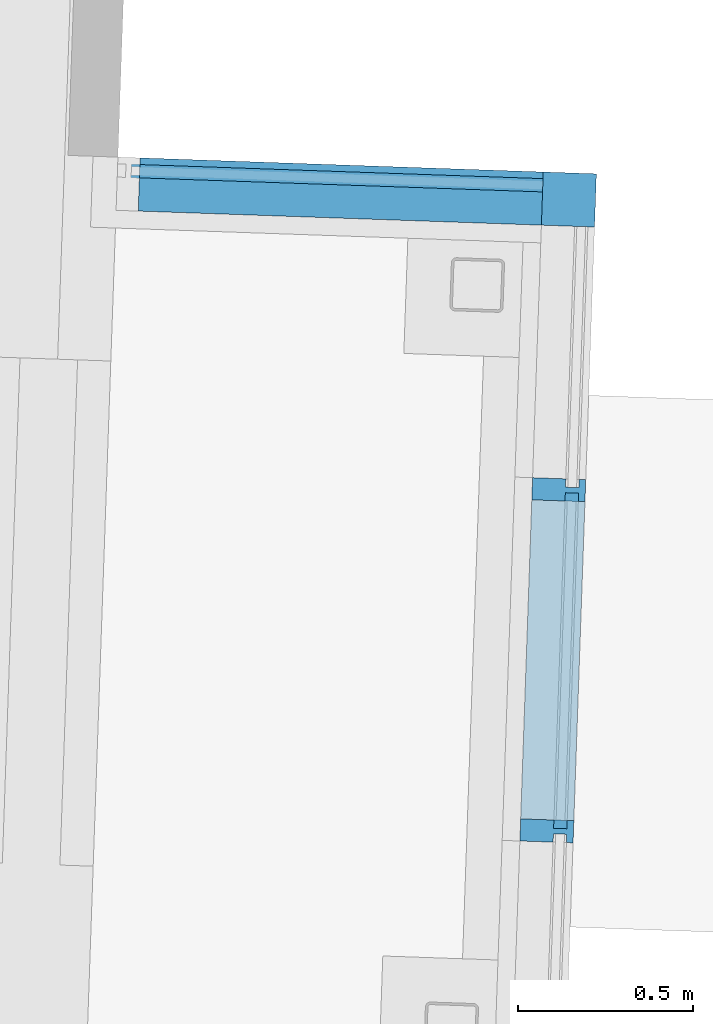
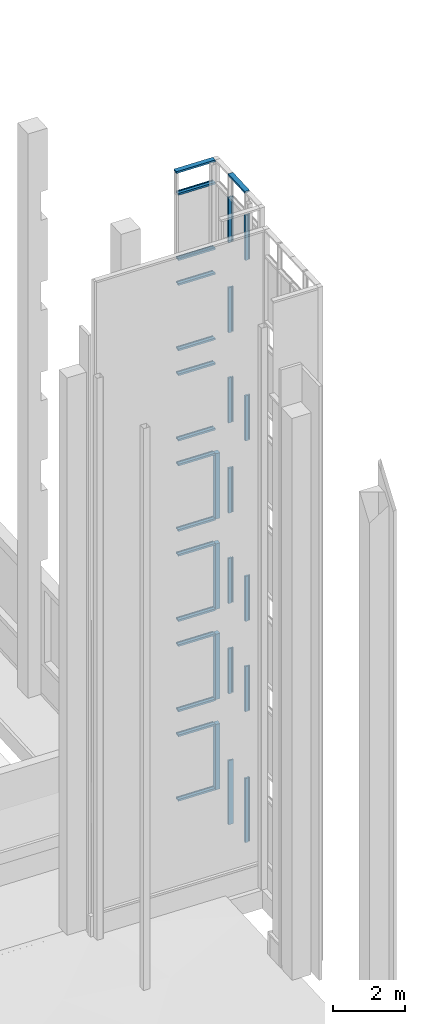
# One storey, part 11 of 44: 32 members, 2 elements without a shape of their own.
"""IFC2X3 building model written with IfcOpenShell, lengths in feet."""

from ifc_helpers import new_model, entity, si_unit, converted_unit, derived_unit, direction, frame, origin, origin_2d_with_axis, place, context, subcontext, project, spatial, polyline, rectangle, outline, extrude, material, type_object, element, aggregate, save


model = new_model("IFC2X3")

# Units and contexts
model_context = context("Model", 3, precision=0.0001, world=origin(), true_north=direction((0.999390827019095, 0.0348994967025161)))
body_context = subcontext(model_context, "Body", "Model", "MODEL_VIEW")
ifc_project = project(units=[converted_unit("LENGTHUNIT", "FOOT", entity("IfcRatioMeasure", 0.3048), si_unit("LENGTHUNIT", "METRE"), dimensions=[1, 0, 0, 0, 0, 0, 0]), converted_unit("AREAUNIT", "SQUARE FOOT", entity("IfcRatioMeasure", 0.09290304), si_unit("AREAUNIT", "SQUARE_METRE"), dimensions=[2, 0, 0, 0, 0, 0, 0]), converted_unit("VOLUMEUNIT", "CUBIC FOOT", entity("IfcRatioMeasure", 0.028316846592), si_unit("VOLUMEUNIT", "CUBIC_METRE"), dimensions=[3, 0, 0, 0, 0, 0, 0]), converted_unit("PLANEANGLEUNIT", "DEGREE", entity("IfcRatioMeasure", 0.0174532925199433), si_unit("PLANEANGLEUNIT", "RADIAN"), dimensions=[0, 0, 0, 0, 0, 0, 0]), si_unit("MASSUNIT", "GRAM", prefix="KILO"), si_unit("TIMEUNIT", "SECOND"), si_unit("FREQUENCYUNIT", "HERTZ"), si_unit("THERMODYNAMICTEMPERATUREUNIT", "DEGREE_CELSIUS"), derived_unit("THERMALTRANSMITTANCEUNIT", [(si_unit("MASSUNIT", "GRAM", prefix="KILO"), 1), (si_unit("THERMODYNAMICTEMPERATUREUNIT", "KELVIN"), -1), (si_unit("TIMEUNIT", "SECOND"), -3)]), derived_unit("VOLUMETRICFLOWRATEUNIT", [(si_unit("LENGTHUNIT", "METRE"), 3), (si_unit("TIMEUNIT", "SECOND"), -1)]), si_unit("ELECTRICCURRENTUNIT", "AMPERE"), si_unit("ELECTRICVOLTAGEUNIT", "VOLT"), si_unit("POWERUNIT", "WATT"), si_unit("FORCEUNIT", "NEWTON"), si_unit("ILLUMINANCEUNIT", "LUX"), si_unit("LUMINOUSFLUXUNIT", "LUMEN"), si_unit("LUMINOUSINTENSITYUNIT", "CANDELA"), derived_unit("USERDEFINED", [(si_unit("MASSUNIT", "GRAM", prefix="KILO"), -1), (si_unit("LENGTHUNIT", "METRE"), -2), (si_unit("TIMEUNIT", "SECOND"), 3), (si_unit("LUMINOUSFLUXUNIT", "LUMEN"), 1)]), derived_unit("LINEARVELOCITYUNIT", [(si_unit("LENGTHUNIT", "METRE"), 1), (si_unit("TIMEUNIT", "SECOND"), -1)]), si_unit("PRESSUREUNIT", "PASCAL"), derived_unit("USERDEFINED", [(si_unit("LENGTHUNIT", "METRE"), -2), (si_unit("MASSUNIT", "GRAM", prefix="KILO"), 1), (si_unit("TIMEUNIT", "SECOND"), -2)])], contexts=[model_context])

# Site, building, storey
site_placement = place(None, frame((892.518771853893, 322.38689265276, 0.00393700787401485), z_axis=(0.0, 0.0, 1.0), x_axis=(0.0348994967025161, 0.999390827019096, 0.0)))
site = spatial("IfcSite", under=ifc_project, at=site_placement, Name="Default", CompositionType="ELEMENT")
building_placement = place(site_placement, origin())
building = spatial("IfcBuilding", under=site, at=building_placement, CompositionType="ELEMENT")
storey_placement = place(building_placement, frame((0.0, 0.0, 544.75)))
storey = spatial("IfcBuildingStorey", under=building, at=storey_placement, Name="Exist Garage - Ground Level", CompositionType="ELEMENT", Elevation=544.75)

# Curtain wall, members
curtain_wall_type = type_object("IfcCurtainWallType", Name="Curtain Wall:(Existing) Curtainwall - Blank", PredefinedType="NOTDEFINED")
curtain_wall_1_placement = place(storey_placement, frame((0.0, 0.0, -544.75)))
curtain_wall_1 = element("IfcCurtainWall", 1, at=curtain_wall_1_placement, inside=storey, type_object=curtain_wall_type, Name="Curtain Wall:(Existing) Curtainwall - Blank", ObjectType="Curtain Wall:(Existing) Curtainwall - Blank")
ifc_material = material(Name="Metal - Aluminum")
member_1_placement = place(curtain_wall_1_placement, frame((0.0, 0.0, 544.75)))
member_1 = element("IfcMember", 2, at=member_1_placement, material=ifc_material, Name="Curtain Wall:(Existing) Curtainwall - Blank", ObjectType="Curtain Wall:(Existing) Curtainwall - Blank", context=body_context, shape_type="SweptSolid", body=[
    extrude(outline(polyline([(-0.136718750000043, -0.312499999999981), (0.0716145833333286, -0.312499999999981), (0.0716145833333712, 0.0), (-0.00651041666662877, 0.0), (-0.00651041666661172, 0.125000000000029), (0.0716145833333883, 0.125000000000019), (0.0716145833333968, 0.187500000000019), (-0.136718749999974, 0.187500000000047), (-0.136718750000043, -0.312499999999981)])), frame((111.448128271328, 230.951453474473, 71.9466145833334), z_axis=(-1.0, 0.0, 0.0), x_axis=(0.0, 0.0, -1.0)), (0.0, 0.0, 1.0), 3.20833333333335),
])
member_2_placement = place(curtain_wall_1_placement, frame((0.0, 0.0, 544.75)))
member_2 = element("IfcMember", 3, at=member_2_placement, material=ifc_material, Name="Curtain Wall:(Existing) Curtainwall - Blank", ObjectType="Curtain Wall:(Existing) Curtainwall - Blank", context=body_context, shape_type="SweptSolid", body=[
    extrude(outline(polyline([(-0.104166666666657, -0.333333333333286), (0.104166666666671, -0.333333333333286), (0.104166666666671, -0.020833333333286), (0.0260416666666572, -0.020833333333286), (0.0260416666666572, 0.104166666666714), (0.104166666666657, 0.104166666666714), (0.104166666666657, 0.166666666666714), (-0.104166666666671, 0.166666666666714), (-0.104166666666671, 0.104166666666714), (-0.0260416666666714, 0.104166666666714), (-0.0260416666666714, -0.020833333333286), (-0.104166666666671, -0.020833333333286), (-0.104166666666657, -0.333333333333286)])), frame((108.239794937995, 230.93062014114, 44.5), z_axis=(0.0, 0.0, 1.0), x_axis=(-1.0, 0.0, 0.0)), (0.0, 0.0, 1.0), 5.0),
])
member_3_placement = place(curtain_wall_1_placement, frame((0.0, 0.0, 544.75)))
member_3 = element("IfcMember", 4, at=member_3_placement, material=ifc_material, Name="Curtain Wall:(Existing) Curtainwall - Blank", ObjectType="Curtain Wall:(Existing) Curtainwall - Blank", context=body_context, shape_type="SweptSolid", body=[
    extrude(outline(polyline([(-0.104166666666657, -0.333333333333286), (0.104166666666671, -0.333333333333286), (0.104166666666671, -0.020833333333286), (0.0260416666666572, -0.020833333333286), (0.0260416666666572, 0.104166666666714), (0.104166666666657, 0.104166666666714), (0.104166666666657, 0.166666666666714), (-0.104166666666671, 0.166666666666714), (-0.104166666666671, 0.104166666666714), (-0.0260416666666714, 0.104166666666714), (-0.0260416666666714, -0.020833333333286), (-0.104166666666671, -0.020833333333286), (-0.104166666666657, -0.333333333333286)])), frame((108.239794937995, 230.93062014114, 14.5), z_axis=(0.0, 0.0, 1.0), x_axis=(-1.0, 0.0, 0.0)), (0.0, 0.0, 1.0), 5.0),
])
member_4_placement = place(curtain_wall_1_placement, frame((0.0, 0.0, 544.75)))
member_4 = element("IfcMember", 5, at=member_4_placement, material=ifc_material, Name="Curtain Wall:(Existing) Curtainwall - Blank", ObjectType="Curtain Wall:(Existing) Curtainwall - Blank", context=body_context, shape_type="SweptSolid", body=[
    extrude(outline(polyline([(-0.136718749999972, -0.3125), (0.071614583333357, -0.3125), (0.071614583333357, 0.0), (-0.00651041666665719, 0.0), (-0.00651041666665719, 0.125), (0.0716145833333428, 0.125), (0.0716145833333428, 0.1875), (-0.136718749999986, 0.1875), (-0.136718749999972, -0.3125)])), frame((108.207242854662, 230.951453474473, 0.0), z_axis=(0.0, 0.0, 1.0), x_axis=(-1.0, 0.0, 0.0)), (0.0, 0.0, 1.0), 7.10416666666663),
])
member_5_placement = place(curtain_wall_1_placement, frame((0.0, 0.0, 544.75)))
member_5 = element("IfcMember", 6, at=member_5_placement, material=ifc_material, Name="Curtain Wall:(Existing) Curtainwall - Blank", ObjectType="Curtain Wall:(Existing) Curtainwall - Blank", context=body_context, shape_type="SweptSolid", body=[
    extrude(outline(polyline([(-0.104166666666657, -0.333333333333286), (0.104166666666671, -0.333333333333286), (0.104166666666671, -0.020833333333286), (0.0260416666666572, -0.020833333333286), (0.0260416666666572, 0.104166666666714), (0.104166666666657, 0.104166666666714), (0.104166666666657, 0.166666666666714), (-0.104166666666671, 0.166666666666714), (-0.104166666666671, 0.104166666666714), (-0.0260416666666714, 0.104166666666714), (-0.0260416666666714, -0.020833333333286), (-0.104166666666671, -0.020833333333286), (-0.104166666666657, -0.333333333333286)])), frame((108.239794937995, 230.93062014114, 24.5), z_axis=(0.0, 0.0, 1.0), x_axis=(-1.0, 0.0, 0.0)), (0.0, 0.0, 1.0), 5.0),
])
member_6_placement = place(curtain_wall_1_placement, frame((0.0, 0.0, 544.75)))
member_6 = element("IfcMember", 7, at=member_6_placement, material=ifc_material, Name="Curtain Wall:(Existing) Curtainwall - Blank", ObjectType="Curtain Wall:(Existing) Curtainwall - Blank", context=body_context, shape_type="SweptSolid", body=[
    extrude(outline(polyline([(-0.104166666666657, -0.333333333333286), (0.104166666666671, -0.333333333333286), (0.104166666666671, -0.020833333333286), (0.0260416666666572, -0.020833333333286), (0.0260416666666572, 0.104166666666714), (0.104166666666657, 0.104166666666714), (0.104166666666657, 0.166666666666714), (-0.104166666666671, 0.166666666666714), (-0.104166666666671, 0.104166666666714), (-0.0260416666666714, 0.104166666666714), (-0.0260416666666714, -0.020833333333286), (-0.104166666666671, -0.020833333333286), (-0.104166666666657, -0.333333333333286)])), frame((108.239794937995, 230.93062014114, 64.5), z_axis=(0.0, 0.0, 1.0), x_axis=(-1.0, 0.0, 0.0)), (0.0, 0.0, 1.0), 5.0),
])
member_7_placement = place(curtain_wall_1_placement, frame((0.0, 0.0, 544.75)))
member_7 = element("IfcMember", 8, at=member_7_placement, material=ifc_material, Name="Curtain Wall:(Existing) Curtainwall - Blank", ObjectType="Curtain Wall:(Existing) Curtainwall - Blank", context=body_context, shape_type="SweptSolid", body=[
    extrude(outline(polyline([(-0.0716145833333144, -0.3125), (0.136718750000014, -0.3125), (0.136718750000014, 0.1875), (-0.0716145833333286, 0.1875), (-0.0716145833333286, 0.125), (0.00651041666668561, 0.125), (0.00651041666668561, 0.0), (-0.0716145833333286, 0.0), (-0.0716145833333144, -0.3125)])), frame((111.480680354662, 230.951453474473, 0.0), z_axis=(0.0, 0.0, 1.0), x_axis=(-1.0, 0.0, 0.0)), (0.0, 0.0, 1.0), 7.10416666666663),
])
member_8_placement = place(curtain_wall_1_placement, frame((0.0, 0.0, 544.75)))
member_8 = element("IfcMember", 9, at=member_8_placement, material=ifc_material, Name="Curtain Wall:(Existing) Curtainwall - Blank", ObjectType="Curtain Wall:(Existing) Curtainwall - Blank", context=body_context, shape_type="SweptSolid", body=[
    extrude(outline(polyline([(-0.104166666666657, -0.333333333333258), (0.104166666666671, -0.333333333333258), (0.104166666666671, -0.0208333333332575), (0.0260416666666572, -0.0208333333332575), (0.0260416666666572, 0.104166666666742), (0.104166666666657, 0.104166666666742), (0.104166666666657, 0.166666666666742), (-0.104166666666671, 0.166666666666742), (-0.104166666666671, 0.104166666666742), (-0.0260416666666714, 0.104166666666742), (-0.0260416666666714, -0.0208333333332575), (-0.104166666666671, -0.0208333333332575), (-0.104166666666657, -0.333333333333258)])), frame((111.448128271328, 230.93062014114, 14.5), z_axis=(0.0, 0.0, 1.0), x_axis=(-1.0, 0.0, 0.0)), (0.0, 0.0, 1.0), 5.0),
])
member_9_placement = place(curtain_wall_1_placement, frame((0.0, 0.0, 544.75)))
member_9 = element("IfcMember", 10, at=member_9_placement, material=ifc_material, Name="Curtain Wall:(Existing) Curtainwall - Blank", ObjectType="Curtain Wall:(Existing) Curtainwall - Blank", context=body_context, shape_type="SweptSolid", body=[
    extrude(outline(polyline([(-0.104166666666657, -0.333333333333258), (0.104166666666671, -0.333333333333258), (0.104166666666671, -0.0208333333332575), (0.0260416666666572, -0.0208333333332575), (0.0260416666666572, 0.104166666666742), (0.104166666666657, 0.104166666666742), (0.104166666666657, 0.166666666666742), (-0.104166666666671, 0.166666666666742), (-0.104166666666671, 0.104166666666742), (-0.0260416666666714, 0.104166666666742), (-0.0260416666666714, -0.0208333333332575), (-0.104166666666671, -0.0208333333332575), (-0.104166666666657, -0.333333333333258)])), frame((111.448128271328, 230.93062014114, 24.5), z_axis=(0.0, 0.0, 1.0), x_axis=(-1.0, 0.0, 0.0)), (0.0, 0.0, 1.0), 5.0),
])
member_10_placement = place(curtain_wall_1_placement, frame((0.0, 0.0, 544.75)))
member_10 = element("IfcMember", 11, at=member_10_placement, material=ifc_material, Name="Curtain Wall:(Existing) Curtainwall - Blank", ObjectType="Curtain Wall:(Existing) Curtainwall - Blank", context=body_context, shape_type="SweptSolid", body=[
    extrude(outline(polyline([(-0.104166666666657, -0.333333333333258), (0.104166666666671, -0.333333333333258), (0.104166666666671, -0.0208333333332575), (0.0260416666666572, -0.0208333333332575), (0.0260416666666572, 0.104166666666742), (0.104166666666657, 0.104166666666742), (0.104166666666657, 0.166666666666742), (-0.104166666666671, 0.166666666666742), (-0.104166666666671, 0.104166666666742), (-0.0260416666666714, 0.104166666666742), (-0.0260416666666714, -0.0208333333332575), (-0.104166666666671, -0.0208333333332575), (-0.104166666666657, -0.333333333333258)])), frame((111.448128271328, 230.93062014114, 34.5), z_axis=(0.0, 0.0, 1.0), x_axis=(-1.0, 0.0, 0.0)), (0.0, 0.0, 1.0), 5.0),
])
member_11_placement = place(curtain_wall_1_placement, frame((0.0, 0.0, 544.75)))
member_11 = element("IfcMember", 12, at=member_11_placement, material=ifc_material, Name="Curtain Wall:(Existing) Curtainwall - Blank", ObjectType="Curtain Wall:(Existing) Curtainwall - Blank", context=body_context, shape_type="SweptSolid", body=[
    extrude(outline(polyline([(-0.104166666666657, -0.333333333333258), (0.104166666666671, -0.333333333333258), (0.104166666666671, -0.0208333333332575), (0.0260416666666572, -0.0208333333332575), (0.0260416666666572, 0.104166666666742), (0.104166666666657, 0.104166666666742), (0.104166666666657, 0.166666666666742), (-0.104166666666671, 0.166666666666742), (-0.104166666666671, 0.104166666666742), (-0.0260416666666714, 0.104166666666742), (-0.0260416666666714, -0.0208333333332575), (-0.104166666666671, -0.0208333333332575), (-0.104166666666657, -0.333333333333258)])), frame((111.448128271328, 230.93062014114, 44.5), z_axis=(0.0, 0.0, 1.0), x_axis=(-1.0, 0.0, 0.0)), (0.0, 0.0, 1.0), 5.0),
])
member_12_placement = place(curtain_wall_1_placement, frame((0.0, 0.0, 544.75)))
member_12 = element("IfcMember", 13, at=member_12_placement, material=ifc_material, Name="Curtain Wall:(Existing) Curtainwall - Blank", ObjectType="Curtain Wall:(Existing) Curtainwall - Blank", context=body_context, shape_type="SweptSolid", body=[
    extrude(outline(polyline([(-0.104166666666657, -0.333333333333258), (0.104166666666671, -0.333333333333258), (0.104166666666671, -0.0208333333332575), (0.0260416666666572, -0.0208333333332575), (0.0260416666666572, 0.104166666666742), (0.104166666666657, 0.104166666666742), (0.104166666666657, 0.166666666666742), (-0.104166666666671, 0.166666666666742), (-0.104166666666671, 0.104166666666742), (-0.0260416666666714, 0.104166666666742), (-0.0260416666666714, -0.0208333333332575), (-0.104166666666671, -0.0208333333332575), (-0.104166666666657, -0.333333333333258)])), frame((111.448128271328, 230.93062014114, 54.5), z_axis=(0.0, 0.0, 1.0), x_axis=(-1.0, 0.0, 0.0)), (0.0, 0.0, 1.0), 5.0),
])
member_13_placement = place(curtain_wall_1_placement, frame((0.0, 0.0, 544.75)))
member_13 = element("IfcMember", 14, at=member_13_placement, material=ifc_material, Name="Curtain Wall:(Existing) Curtainwall - Blank", ObjectType="Curtain Wall:(Existing) Curtainwall - Blank", context=body_context, shape_type="SweptSolid", body=[
    extrude(outline(polyline([(-0.104166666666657, -0.333333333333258), (0.104166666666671, -0.333333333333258), (0.104166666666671, -0.0208333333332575), (0.0260416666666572, -0.0208333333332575), (0.0260416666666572, 0.104166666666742), (0.104166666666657, 0.104166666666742), (0.104166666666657, 0.166666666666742), (-0.104166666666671, 0.166666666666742), (-0.104166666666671, 0.104166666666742), (-0.0260416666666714, 0.104166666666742), (-0.0260416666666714, -0.0208333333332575), (-0.104166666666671, -0.0208333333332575), (-0.104166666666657, -0.333333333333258)])), frame((111.448128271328, 230.93062014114, 64.5), z_axis=(0.0, 0.0, 1.0), x_axis=(-1.0, 0.0, 0.0)), (0.0, 0.0, 1.0), 5.0),
])
aggregate(curtain_wall_1, [member_1, member_2, member_3, member_4, member_5, member_6, member_7, member_8, member_9, member_10, member_11, member_12, member_13])

curtain_wall_2_placement = place(storey_placement, frame((0.0, 0.0, -544.75)))
curtain_wall_2 = element("IfcCurtainWall", 15, at=curtain_wall_2_placement, inside=storey, type_object=curtain_wall_type, Name="Curtain Wall:(Existing) Curtainwall - Blank", ObjectType="Curtain Wall:(Existing) Curtainwall - Blank")
member_14_placement = place(curtain_wall_2_placement, frame((0.0, 0.0, 544.75)))
member_14 = element("IfcMember", 16, at=member_14_placement, material=ifc_material, Name="Curtain Wall:(Existing) Curtainwall - Blank", ObjectType="Curtain Wall:(Existing) Curtainwall - Blank", context=body_context, shape_type="SweptSolid", body=[
    extrude(outline(polyline([(-0.13671875, -0.3125), (0.0716145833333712, -0.3125), (0.0716145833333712, 0.0), (-0.00651041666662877, 0.0), (-0.00651041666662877, 0.125), (0.0716145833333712, 0.125), (0.0716145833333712, 0.1875), (-0.13671875, 0.1875), (-0.13671875, -0.3125)])), frame((114.239796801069, 235.263953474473, 71.9466145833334), z_axis=(0.0, -1.0, 0.0), x_axis=(0.0, 0.0, -1.0)), (0.0, 0.0, 1.0), 4.00000000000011),
])
member_15_placement = place(curtain_wall_2_placement, frame((0.0, 0.0, 544.75)))
member_15 = element("IfcMember", 17, at=member_15_placement, material=ifc_material, Name="Curtain Wall:(Existing) Curtainwall - Blank", ObjectType="Curtain Wall:(Existing) Curtainwall - Blank", context=body_context, shape_type="SweptSolid", body=[
    extrude(outline(polyline([(-0.0716145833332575, -0.1875), (0.136718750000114, -0.1875), (0.136718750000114, 0.3125), (-0.0716145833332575, 0.3125), (-0.0716145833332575, 0.0), (0.00651041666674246, 0.0), (0.00651041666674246, -0.125), (-0.0716145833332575, -0.125), (-0.0716145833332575, -0.1875)])), frame((114.239796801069, 231.263953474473, 2.38671875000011), z_axis=(0.0, 1.0, 0.0), x_axis=(0.0, 0.0, -1.0)), (0.0, 0.0, 1.0), 3.79166666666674),
])
member_16_placement = place(curtain_wall_2_placement, frame((0.0, 0.0, 544.75)))
member_16 = element("IfcMember", 18, at=member_16_placement, material=ifc_material, Name="Curtain Wall:(Existing) Curtainwall - Blank", ObjectType="Curtain Wall:(Existing) Curtainwall - Blank", context=body_context, shape_type="SweptSolid", body=[
    extrude(rectangle(XDim=0.5, YDim=0.5, at=origin_2d_with_axis()), frame((114.177296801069, 231.013953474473, 9.5), z_axis=(0.0, 0.0, -1.0), x_axis=(-1.0, 0.0, 0.0)), (0.0, 0.0, 1.0), 7.25),
])
member_17_placement = place(curtain_wall_2_placement, frame((0.0, 0.0, 544.75)))
member_17 = element("IfcMember", 19, at=member_17_placement, material=ifc_material, Name="Curtain Wall:(Existing) Curtainwall - Blank", ObjectType="Curtain Wall:(Existing) Curtainwall - Blank", context=body_context, shape_type="SweptSolid", body=[
    extrude(rectangle(XDim=0.5, YDim=0.5, at=origin_2d_with_axis()), frame((114.177296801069, 231.013953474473, 19.5), z_axis=(0.0, 0.0, -1.0), x_axis=(-1.0, 0.0, 0.0)), (0.0, 0.0, 1.0), 7.25),
])
member_18_placement = place(curtain_wall_2_placement, frame((0.0, 0.0, 544.75)))
member_18 = element("IfcMember", 20, at=member_18_placement, material=ifc_material, Name="Curtain Wall:(Existing) Curtainwall - Blank", ObjectType="Curtain Wall:(Existing) Curtainwall - Blank", context=body_context, shape_type="SweptSolid", body=[
    extrude(rectangle(XDim=0.5, YDim=0.5, at=origin_2d_with_axis()), frame((114.177296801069, 231.013953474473, 29.5), z_axis=(0.0, 0.0, -1.0), x_axis=(-1.0, 0.0, 0.0)), (0.0, 0.0, 1.0), 7.25),
])
member_19_placement = place(curtain_wall_2_placement, frame((0.0, 0.0, 544.75)))
member_19 = element("IfcMember", 21, at=member_19_placement, material=ifc_material, Name="Curtain Wall:(Existing) Curtainwall - Blank", ObjectType="Curtain Wall:(Existing) Curtainwall - Blank", context=body_context, shape_type="SweptSolid", body=[
    extrude(rectangle(XDim=0.5, YDim=0.5, at=origin_2d_with_axis()), frame((114.177296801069, 231.013953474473, 39.5), z_axis=(0.0, 0.0, -1.0), x_axis=(-1.0, 0.0, 0.0)), (0.0, 0.0, 1.0), 7.25),
])
member_20_placement = place(curtain_wall_2_placement, frame((0.0, 0.0, 544.75)))
member_20 = element("IfcMember", 22, at=member_20_placement, material=ifc_material, Name="Curtain Wall:(Existing) Curtainwall - Blank", ObjectType="Curtain Wall:(Existing) Curtainwall - Blank", context=body_context, shape_type="SweptSolid", body=[
    extrude(outline(polyline([(-0.104166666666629, -0.333333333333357), (0.104166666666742, -0.333333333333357), (0.104166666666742, -0.020833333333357), (0.0260416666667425, -0.020833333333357), (0.0260416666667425, 0.104166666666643), (0.104166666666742, 0.104166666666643), (0.104166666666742, 0.166666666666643), (-0.104166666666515, 0.166666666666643), (-0.104166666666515, 0.104166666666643), (-0.0260416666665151, 0.104166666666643), (-0.0260416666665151, -0.020833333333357), (-0.104166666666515, -0.020833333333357), (-0.104166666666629, -0.333333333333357)])), frame((114.260630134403, 235.05562014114, 9.50000000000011), z_axis=(0.0, -1.0, 0.0), x_axis=(0.0, 0.0, -1.0)), (0.0, 0.0, 1.0), 3.79166666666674),
])
member_21_placement = place(curtain_wall_2_placement, frame((0.0, 0.0, 544.75)))
member_21 = element("IfcMember", 23, at=member_21_placement, material=ifc_material, Name="Curtain Wall:(Existing) Curtainwall - Blank", ObjectType="Curtain Wall:(Existing) Curtainwall - Blank", context=body_context, shape_type="SweptSolid", body=[
    extrude(outline(polyline([(-0.104166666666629, -0.333333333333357), (0.104166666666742, -0.333333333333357), (0.104166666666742, -0.020833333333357), (0.0260416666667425, -0.020833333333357), (0.0260416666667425, 0.104166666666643), (0.104166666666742, 0.104166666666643), (0.104166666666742, 0.166666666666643), (-0.104166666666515, 0.166666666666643), (-0.104166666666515, 0.104166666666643), (-0.0260416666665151, 0.104166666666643), (-0.0260416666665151, -0.020833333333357), (-0.104166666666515, -0.020833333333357), (-0.104166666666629, -0.333333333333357)])), frame((114.260630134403, 235.05562014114, 12.2500000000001), z_axis=(0.0, -1.0, 0.0), x_axis=(0.0, 0.0, -1.0)), (0.0, 0.0, 1.0), 3.79166666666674),
])
member_22_placement = place(curtain_wall_2_placement, frame((0.0, 0.0, 544.75)))
member_22 = element("IfcMember", 24, at=member_22_placement, material=ifc_material, Name="Curtain Wall:(Existing) Curtainwall - Blank", ObjectType="Curtain Wall:(Existing) Curtainwall - Blank", context=body_context, shape_type="SweptSolid", body=[
    extrude(outline(polyline([(-0.104166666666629, -0.333333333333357), (0.104166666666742, -0.333333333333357), (0.104166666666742, -0.020833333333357), (0.0260416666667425, -0.020833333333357), (0.0260416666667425, 0.104166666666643), (0.104166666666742, 0.104166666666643), (0.104166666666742, 0.166666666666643), (-0.104166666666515, 0.166666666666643), (-0.104166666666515, 0.104166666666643), (-0.0260416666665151, 0.104166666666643), (-0.0260416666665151, -0.020833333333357), (-0.104166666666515, -0.020833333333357), (-0.104166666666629, -0.333333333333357)])), frame((114.260630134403, 235.05562014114, 19.5000000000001), z_axis=(0.0, -1.0, 0.0), x_axis=(0.0, 0.0, -1.0)), (0.0, 0.0, 1.0), 3.79166666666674),
])
member_23_placement = place(curtain_wall_2_placement, frame((0.0, 0.0, 544.75)))
member_23 = element("IfcMember", 25, at=member_23_placement, material=ifc_material, Name="Curtain Wall:(Existing) Curtainwall - Blank", ObjectType="Curtain Wall:(Existing) Curtainwall - Blank", context=body_context, shape_type="SweptSolid", body=[
    extrude(outline(polyline([(-0.104166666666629, -0.333333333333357), (0.104166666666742, -0.333333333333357), (0.104166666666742, -0.020833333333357), (0.0260416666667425, -0.020833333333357), (0.0260416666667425, 0.104166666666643), (0.104166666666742, 0.104166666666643), (0.104166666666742, 0.166666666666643), (-0.104166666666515, 0.166666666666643), (-0.104166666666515, 0.104166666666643), (-0.0260416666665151, 0.104166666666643), (-0.0260416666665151, -0.020833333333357), (-0.104166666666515, -0.020833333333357), (-0.104166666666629, -0.333333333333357)])), frame((114.260630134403, 235.05562014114, 22.2500000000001), z_axis=(0.0, -1.0, 0.0), x_axis=(0.0, 0.0, -1.0)), (0.0, 0.0, 1.0), 3.79166666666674),
])
member_24_placement = place(curtain_wall_2_placement, frame((0.0, 0.0, 544.75)))
member_24 = element("IfcMember", 26, at=member_24_placement, material=ifc_material, Name="Curtain Wall:(Existing) Curtainwall - Blank", ObjectType="Curtain Wall:(Existing) Curtainwall - Blank", context=body_context, shape_type="SweptSolid", body=[
    extrude(outline(polyline([(-0.104166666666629, -0.333333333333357), (0.104166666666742, -0.333333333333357), (0.104166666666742, -0.020833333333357), (0.0260416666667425, -0.020833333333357), (0.0260416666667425, 0.104166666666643), (0.104166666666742, 0.104166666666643), (0.104166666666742, 0.166666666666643), (-0.104166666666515, 0.166666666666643), (-0.104166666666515, 0.104166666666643), (-0.0260416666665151, 0.104166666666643), (-0.0260416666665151, -0.020833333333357), (-0.104166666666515, -0.020833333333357), (-0.104166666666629, -0.333333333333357)])), frame((114.260630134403, 235.05562014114, 29.5000000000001), z_axis=(0.0, -1.0, 0.0), x_axis=(0.0, 0.0, -1.0)), (0.0, 0.0, 1.0), 3.79166666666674),
])
member_25_placement = place(curtain_wall_2_placement, frame((0.0, 0.0, 544.75)))
member_25 = element("IfcMember", 27, at=member_25_placement, material=ifc_material, Name="Curtain Wall:(Existing) Curtainwall - Blank", ObjectType="Curtain Wall:(Existing) Curtainwall - Blank", context=body_context, shape_type="SweptSolid", body=[
    extrude(outline(polyline([(-0.104166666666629, -0.333333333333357), (0.104166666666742, -0.333333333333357), (0.104166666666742, -0.020833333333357), (0.0260416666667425, -0.020833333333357), (0.0260416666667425, 0.104166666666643), (0.104166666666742, 0.104166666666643), (0.104166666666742, 0.166666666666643), (-0.104166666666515, 0.166666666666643), (-0.104166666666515, 0.104166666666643), (-0.0260416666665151, 0.104166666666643), (-0.0260416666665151, -0.020833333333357), (-0.104166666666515, -0.020833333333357), (-0.104166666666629, -0.333333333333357)])), frame((114.260630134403, 235.05562014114, 32.2500000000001), z_axis=(0.0, -1.0, 0.0), x_axis=(0.0, 0.0, -1.0)), (0.0, 0.0, 1.0), 3.79166666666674),
])
member_26_placement = place(curtain_wall_2_placement, frame((0.0, 0.0, 544.75)))
member_26 = element("IfcMember", 28, at=member_26_placement, material=ifc_material, Name="Curtain Wall:(Existing) Curtainwall - Blank", ObjectType="Curtain Wall:(Existing) Curtainwall - Blank", context=body_context, shape_type="SweptSolid", body=[
    extrude(outline(polyline([(-0.104166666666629, -0.333333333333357), (0.104166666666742, -0.333333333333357), (0.104166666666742, -0.020833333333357), (0.0260416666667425, -0.020833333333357), (0.0260416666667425, 0.104166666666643), (0.104166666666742, 0.104166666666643), (0.104166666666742, 0.166666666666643), (-0.104166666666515, 0.166666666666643), (-0.104166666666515, 0.104166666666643), (-0.0260416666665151, 0.104166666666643), (-0.0260416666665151, -0.020833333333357), (-0.104166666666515, -0.020833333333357), (-0.104166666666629, -0.333333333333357)])), frame((114.260630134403, 235.05562014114, 39.5000000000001), z_axis=(0.0, -1.0, 0.0), x_axis=(0.0, 0.0, -1.0)), (0.0, 0.0, 1.0), 3.79166666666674),
])
member_27_placement = place(curtain_wall_2_placement, frame((0.0, 0.0, 544.75)))
member_27 = element("IfcMember", 29, at=member_27_placement, material=ifc_material, Name="Curtain Wall:(Existing) Curtainwall - Blank", ObjectType="Curtain Wall:(Existing) Curtainwall - Blank", context=body_context, shape_type="SweptSolid", body=[
    extrude(outline(polyline([(-0.104166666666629, -0.333333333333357), (0.104166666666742, -0.333333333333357), (0.104166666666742, -0.020833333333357), (0.0260416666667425, -0.020833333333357), (0.0260416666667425, 0.104166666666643), (0.104166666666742, 0.104166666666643), (0.104166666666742, 0.166666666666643), (-0.104166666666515, 0.166666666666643), (-0.104166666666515, 0.104166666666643), (-0.0260416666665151, 0.104166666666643), (-0.0260416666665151, -0.020833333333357), (-0.104166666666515, -0.020833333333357), (-0.104166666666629, -0.333333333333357)])), frame((114.260630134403, 235.05562014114, 42.2500000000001), z_axis=(0.0, -1.0, 0.0), x_axis=(0.0, 0.0, -1.0)), (0.0, 0.0, 1.0), 3.79166666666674),
])
member_28_placement = place(curtain_wall_2_placement, frame((0.0, 0.0, 544.75)))
member_28 = element("IfcMember", 30, at=member_28_placement, material=ifc_material, Name="Curtain Wall:(Existing) Curtainwall - Blank", ObjectType="Curtain Wall:(Existing) Curtainwall - Blank", context=body_context, shape_type="SweptSolid", body=[
    extrude(outline(polyline([(-0.104166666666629, -0.333333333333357), (0.104166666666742, -0.333333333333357), (0.104166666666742, -0.020833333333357), (0.0260416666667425, -0.020833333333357), (0.0260416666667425, 0.104166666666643), (0.104166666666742, 0.104166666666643), (0.104166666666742, 0.166666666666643), (-0.104166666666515, 0.166666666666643), (-0.104166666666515, 0.104166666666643), (-0.0260416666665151, 0.104166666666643), (-0.0260416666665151, -0.020833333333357), (-0.104166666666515, -0.020833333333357), (-0.104166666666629, -0.333333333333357)])), frame((114.260630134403, 235.05562014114, 49.5000000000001), z_axis=(0.0, -1.0, 0.0), x_axis=(0.0, 0.0, -1.0)), (0.0, 0.0, 1.0), 3.79166666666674),
])
member_29_placement = place(curtain_wall_2_placement, frame((0.0, 0.0, 544.75)))
member_29 = element("IfcMember", 31, at=member_29_placement, material=ifc_material, Name="Curtain Wall:(Existing) Curtainwall - Blank", ObjectType="Curtain Wall:(Existing) Curtainwall - Blank", context=body_context, shape_type="SweptSolid", body=[
    extrude(outline(polyline([(-0.104166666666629, -0.333333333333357), (0.104166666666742, -0.333333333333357), (0.104166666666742, -0.020833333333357), (0.0260416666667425, -0.020833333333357), (0.0260416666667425, 0.104166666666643), (0.104166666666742, 0.104166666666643), (0.104166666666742, 0.166666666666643), (-0.104166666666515, 0.166666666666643), (-0.104166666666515, 0.104166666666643), (-0.0260416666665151, 0.104166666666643), (-0.0260416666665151, -0.020833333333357), (-0.104166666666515, -0.020833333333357), (-0.104166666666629, -0.333333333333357)])), frame((114.260630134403, 235.05562014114, 52.2500000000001), z_axis=(0.0, -1.0, 0.0), x_axis=(0.0, 0.0, -1.0)), (0.0, 0.0, 1.0), 3.79166666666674),
])
member_30_placement = place(curtain_wall_2_placement, frame((0.0, 0.0, 544.75)))
member_30 = element("IfcMember", 32, at=member_30_placement, material=ifc_material, Name="Curtain Wall:(Existing) Curtainwall - Blank", ObjectType="Curtain Wall:(Existing) Curtainwall - Blank", context=body_context, shape_type="SweptSolid", body=[
    extrude(outline(polyline([(-0.104166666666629, -0.333333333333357), (0.104166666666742, -0.333333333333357), (0.104166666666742, -0.020833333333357), (0.0260416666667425, -0.020833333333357), (0.0260416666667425, 0.104166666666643), (0.104166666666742, 0.104166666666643), (0.104166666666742, 0.166666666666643), (-0.104166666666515, 0.166666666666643), (-0.104166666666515, 0.104166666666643), (-0.0260416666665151, 0.104166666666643), (-0.0260416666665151, -0.020833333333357), (-0.104166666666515, -0.020833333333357), (-0.104166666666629, -0.333333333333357)])), frame((114.260630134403, 235.05562014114, 59.5000000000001), z_axis=(0.0, -1.0, 0.0), x_axis=(0.0, 0.0, -1.0)), (0.0, 0.0, 1.0), 3.79166666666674),
])
member_31_placement = place(curtain_wall_2_placement, frame((0.0, 0.0, 544.75)))
member_31 = element("IfcMember", 33, at=member_31_placement, material=ifc_material, Name="Curtain Wall:(Existing) Curtainwall - Blank", ObjectType="Curtain Wall:(Existing) Curtainwall - Blank", context=body_context, shape_type="SweptSolid", body=[
    extrude(outline(polyline([(-0.104166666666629, -0.333333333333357), (0.104166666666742, -0.333333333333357), (0.104166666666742, -0.020833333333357), (0.0260416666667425, -0.020833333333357), (0.0260416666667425, 0.104166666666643), (0.104166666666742, 0.104166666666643), (0.104166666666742, 0.166666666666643), (-0.104166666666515, 0.166666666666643), (-0.104166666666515, 0.104166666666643), (-0.0260416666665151, 0.104166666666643), (-0.0260416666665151, -0.020833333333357), (-0.104166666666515, -0.020833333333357), (-0.104166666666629, -0.333333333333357)])), frame((114.260630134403, 235.05562014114, 62.2500000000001), z_axis=(0.0, -1.0, 0.0), x_axis=(0.0, 0.0, -1.0)), (0.0, 0.0, 1.0), 3.79166666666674),
])
member_32_placement = place(curtain_wall_2_placement, frame((0.0, 0.0, 544.75)))
member_32 = element("IfcMember", 34, at=member_32_placement, material=ifc_material, Name="Curtain Wall:(Existing) Curtainwall - Blank", ObjectType="Curtain Wall:(Existing) Curtainwall - Blank", context=body_context, shape_type="SweptSolid", body=[
    extrude(outline(polyline([(-0.104166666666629, -0.333333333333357), (0.104166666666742, -0.333333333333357), (0.104166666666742, -0.020833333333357), (0.0260416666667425, -0.020833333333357), (0.0260416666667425, 0.104166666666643), (0.104166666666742, 0.104166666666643), (0.104166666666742, 0.166666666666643), (-0.104166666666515, 0.166666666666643), (-0.104166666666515, 0.104166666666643), (-0.0260416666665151, 0.104166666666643), (-0.0260416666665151, -0.020833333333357), (-0.104166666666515, -0.020833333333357), (-0.104166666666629, -0.333333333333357)])), frame((114.260630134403, 235.05562014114, 69.5000000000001), z_axis=(0.0, -1.0, 0.0), x_axis=(0.0, 0.0, -1.0)), (0.0, 0.0, 1.0), 3.79166666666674),
])
aggregate(curtain_wall_2, [member_14, member_15, member_16, member_17, member_18, member_19, member_20, member_21, member_22, member_23, member_24, member_25, member_26, member_27, member_28, member_29, member_30, member_31, member_32])

save(model, "model.ifc")
